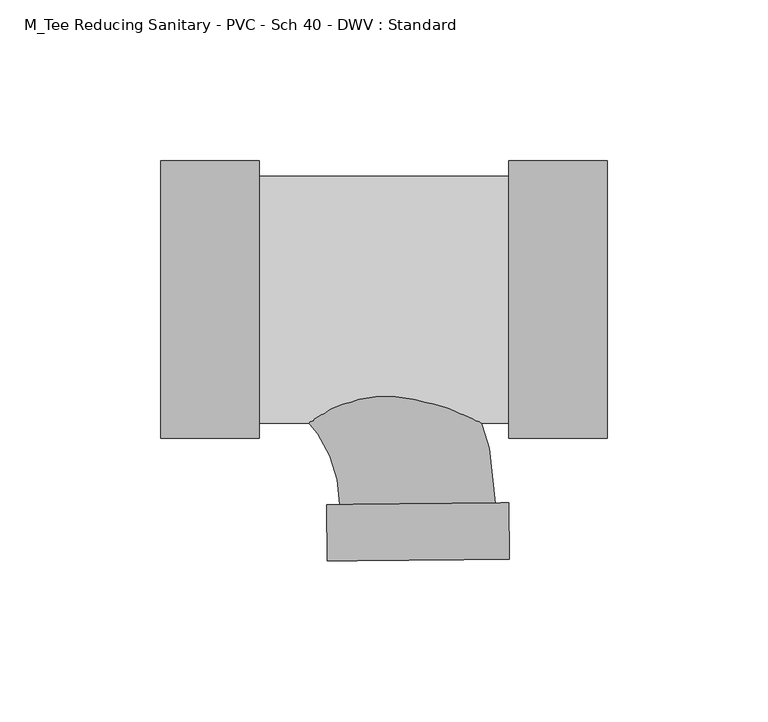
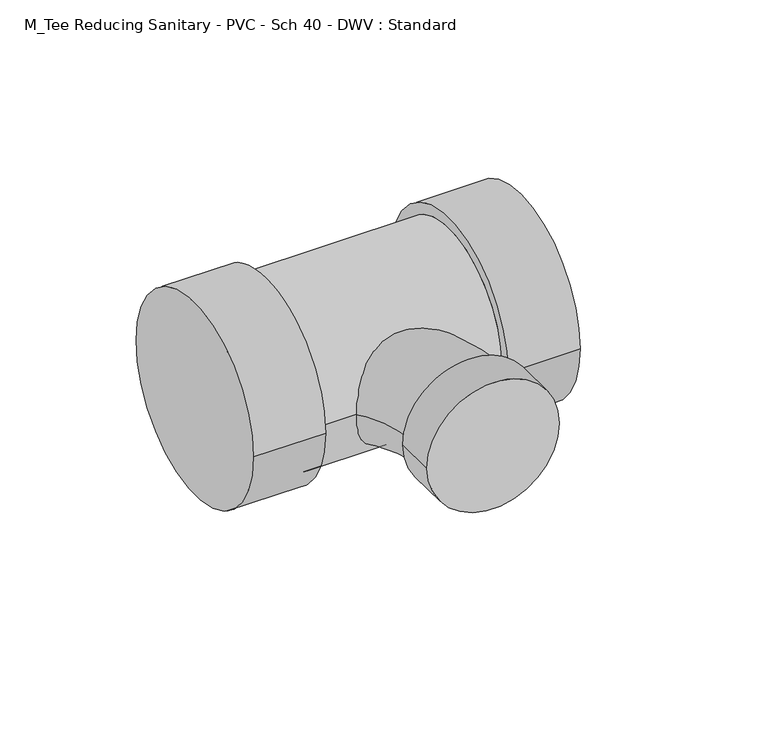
"""IFC4 building model written with IfcOpenShell, lengths in millimetres: pipe fitting geometry, M_Tee Reducing Sanitary - PVC - Sch 40 - DWV : Standard."""

from ifc_helpers import new_model, si_unit, point, frame, origin, place, context, project, spatial, circle_curve, ellipse_curve, trimmed, source, transform, mapped, element, save
from ifc_brep_helpers import plane_surface, cylinder_surface, revolved_surface, advanced_brep


def m_tee_reducing_sanitary_pvc_sch_40_dwv_standard_21d2848c(model_context):
    return source(origin(), model_context, "Body", "AdvancedBrep", [
        advanced_brep(
        [(28.9154308, -43.0871094, 0.0), (28.9154308, 43.0871094, 0.0), (28.9154308, -38.3640625, 0.0), (28.9154308, 38.3640625, 0.0), (59.4857433, -43.0871094, 0.0), (59.4857433, 43.0871094, 0.0), (-48.4928062, 38.3640625, 0.0), (-48.4928062, -38.3640625, 0.0), (-79.0631188, -43.0871094, 0.0), (-79.0631187, 43.0871094, 0.0), (-48.4928063, -43.0871094, 0.0), (-48.4928062, 43.0871094, 0.0)],
        [
            (0, 1, circle_curve(frame((28.9154308, 0.0, 0.0), z_axis=(-1.0, 0.0, 0.0), x_axis=(0.0, 1.0, 0.0)), 43.0871094)),
            (1, 0, circle_curve(frame((28.9154308, 0.0, 0.0), z_axis=(-1.0, 0.0, 0.0), x_axis=(0.0, 1.0, 0.0)), 43.0871094)),
            (2, 3, circle_curve(frame((28.9154308, 0.0, 0.0), z_axis=(1.0, 0.0, 0.0), x_axis=(0.0, 0.0, -1.0)), 38.3640625)),
            (3, 2, circle_curve(frame((28.9154308, 0.0, 0.0), z_axis=(1.0, 0.0, 0.0), x_axis=(0.0, 0.0, 1.0)), 38.3640625)),
            (4, 5, circle_curve(frame((59.4857433, 0.0, 0.0), z_axis=(1.0, 0.0, 0.0), x_axis=(0.0, 1.0, 0.0)), 43.0871094)),
            (5, 4, circle_curve(frame((59.4857433, 0.0, 0.0), z_axis=(1.0, 0.0, 0.0), x_axis=(0.0, 1.0, 0.0)), 43.0871094)),
            (0, 4),
            (5, 1),
            (6, 3),
            (2, 7),
            (7, 6, circle_curve(frame((-48.4928063, 0.0, 0.0), z_axis=(1.0, 0.0, 0.0), x_axis=(0.0, 0.0, -1.0)), 38.3640625)),
            (6, 7, circle_curve(frame((-48.4928062, 0.0, 0.0), z_axis=(1.0, 0.0, 0.0), x_axis=(0.0, 0.0, 1.0)), 38.3640625)),
            (8, 9, circle_curve(frame((-79.0631187, 0.0, 0.0), z_axis=(-1.0, 0.0, 0.0), x_axis=(0.0, 1.0, 0.0)), 43.0871094)),
            (9, 8, circle_curve(frame((-79.0631187, 0.0, 0.0), z_axis=(-1.0, 0.0, 0.0), x_axis=(0.0, 1.0, 0.0)), 43.0871094)),
            (10, 11, circle_curve(frame((-48.4928062, 0.0, 0.0), z_axis=(1.0, 0.0, 0.0), x_axis=(0.0, 1.0, 0.0)), 43.0871094)),
            (11, 10, circle_curve(frame((-48.4928062, 0.0, 0.0), z_axis=(1.0, 0.0, 0.0), x_axis=(0.0, 1.0, 0.0)), 43.0871094)),
            (8, 10),
            (11, 9),
        ],
        [
            plane_surface(frame((28.9154308, 0.0, 0.0), z_axis=(-1.0, 0.0, 0.0), x_axis=(0.0, 0.0, 1.0))),
            plane_surface(frame((59.4857433, 0.0, 0.0), z_axis=(1.0, 0.0, 0.0), x_axis=(0.0, 0.0, 1.0))),
            cylinder_surface(frame((28.9154308, 0.0, 0.0), z_axis=(-1.0, 0.0, 0.0), x_axis=(0.0, 1.0, 0.0)), 43.0871094),
            cylinder_surface(frame((-48.4928062, 0.0, 0.0), z_axis=(1.0, 0.0, 0.0), x_axis=(0.0, 0.0, -1.0)), 38.3640625),
            cylinder_surface(frame((-48.4928062, 0.0, 0.0), z_axis=(1.0, 0.0, 0.0), x_axis=(0.0, 0.0, 1.0)), 38.3640625),
            plane_surface(frame((-79.0631187, 0.0, 0.0), z_axis=(-1.0, 0.0, 0.0), x_axis=(0.0, 0.0, 1.0))),
            plane_surface(frame((-48.4928062, 0.0, 0.0), z_axis=(1.0, 0.0, 0.0), x_axis=(0.0, 0.0, 1.0))),
            cylinder_surface(frame((-79.0631187, 0.0, 0.0), z_axis=(-1.0, 0.0, 0.0), x_axis=(0.0, 1.0, 0.0)), 43.0871094),
        ],
        [
            (0, [[1, 2], [3, 4]]),
            (1, [[5, 6]]),
            (2, [[-1, 7, -6, 8]]),
            (2, [[-2, -8, -5, -7]]),
            (3, [[9, -3, 10, 11]]),
            (4, [[-9, 12, -10, -4]]),
            (5, [[13, 14]]),
            (6, [[15, 16], [-11, -12]]),
            (7, [[-13, 17, -16, 18]]),
            (7, [[-14, -18, -15, -17]]),
        ],
    ),
        advanced_brep(
        [(-27.6475411, -63.6773015, 0.0), (28.9154308, -63.1116717, 0.0), (24.7627385, -63.1531987, 0.0), (-23.4948487, -63.6357745, 0.0), (-27.4730518, -81.126229, 0.0), (29.0899201, -80.5605993, 0.0), (-63.3976562, -24.13, 0.0), (-63.3976562, 24.13, 0.0)],
        [
            (0, 1, circle_curve(frame((0.6339449, -63.3944866, 0.0), z_axis=(-0.009999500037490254, 0.9999500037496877, 0.0), x_axis=(0.9999500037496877, 0.009999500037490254, 0.0)), 28.2829)),
            (1, 0, circle_curve(frame((0.6339449, -63.3944866, 0.0), z_axis=(-0.009999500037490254, 0.9999500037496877, 0.0), x_axis=(0.9999500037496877, 0.009999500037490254, 0.0)), 28.2829)),
            (2, 3, circle_curve(frame((0.6339449, -63.3944866, 0.0), z_axis=(0.009999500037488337, -0.9999500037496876, 0.0), x_axis=(0.9999500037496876, 0.009999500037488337, 0.0)), 24.13)),
            (3, 2, circle_curve(frame((0.6339449, -63.3944866, 0.0), z_axis=(0.009999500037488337, -0.9999500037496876, 0.0), x_axis=(0.9999500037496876, 0.009999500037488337, 0.0)), 24.13)),
            (4, 5, circle_curve(frame((0.8084341, -80.8434142, 0.0), z_axis=(0.009999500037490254, -0.9999500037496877, 0.0), x_axis=(0.9999500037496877, 0.009999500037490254, 0.0)), 28.2829)),
            (5, 4, circle_curve(frame((0.8084341, -80.8434142, 0.0), z_axis=(0.009999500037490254, -0.9999500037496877, 0.0), x_axis=(0.9999500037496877, 0.009999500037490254, 0.0)), 28.2829)),
            (0, 4),
            (5, 1),
            (6, 7, circle_curve(frame((-63.3976562, 0.0, 0.0), z_axis=(-1.0, 0.0, 0.0), x_axis=(0.0, 1.0, 0.0)), 24.13)),
            (7, 6, circle_curve(frame((-63.3976562, 0.0, 0.0), z_axis=(-1.0, 0.0, 0.0), x_axis=(0.0, 1.0, 0.0)), 24.13)),
            (6, 3, circle_curve(frame((-63.3976562, -64.0348026, 0.0), z_axis=(0.0, 0.0, -1.0), x_axis=(0.0, 1.0, 0.0)), 39.9048026)),
            (2, 7, circle_curve(frame((-63.3976562, -64.0348026, 0.0), z_axis=(0.0, 0.0, 1.0), x_axis=(0.0, 1.0, 0.0)), 88.1648026)),
        ],
        [
            plane_surface(frame((0.6339449, -63.3944866, 0.0), z_axis=(-0.009999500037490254, 0.9999500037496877, 0.0), x_axis=(0.0, 0.0, 1.0))),
            plane_surface(frame((0.8084341, -80.8434142, 0.0), z_axis=(0.009999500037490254, -0.9999500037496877, 0.0), x_axis=(0.0, 0.0, 1.0))),
            cylinder_surface(frame((0.6339449, -63.3944866, 0.0), z_axis=(-0.009999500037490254, 0.9999500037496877, 0.0), x_axis=(0.9999500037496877, 0.009999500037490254, 0.0)), 28.2829),
            plane_surface(frame((-63.3976562, 0.0, 0.0), z_axis=(-1.0, 0.0, 0.0), x_axis=(0.0, 0.0, 1.0))),
            revolved_surface(trimmed(ellipse_curve(frame((-63.3976562, 0.0, 0.0), z_axis=(-1.0, 0.0, 0.0), x_axis=(0.0, 1.0, 0.0)), 24.13, 24.13), [point((-63.3976562, -24.13, 0.0))], [point((-63.3976562, 24.13, 0.0))], True, "CARTESIAN"), (-63.3976562, -64.0348026, 0.0), (0.0, 0.0, -1.0)),
            revolved_surface(trimmed(ellipse_curve(frame((-63.3976562, 0.0, 0.0), z_axis=(-1.0, 0.0, 0.0), x_axis=(0.0, 1.0, 0.0)), 24.13, 24.13), [point((-63.3976562, 24.13, 0.0))], [point((-63.3976562, -24.13, 0.0))], True, "CARTESIAN"), (-63.3976562, -64.0348026, 0.0), (0.0, 0.0, -1.0)),
        ],
        [
            (0, [[1, 2], [3, 4]]),
            (1, [[5, 6]]),
            (2, [[-1, 7, -6, 8]]),
            (2, [[-2, -8, -5, -7]]),
            (3, [[9, 10]]),
            (4, [[-9, 11, -3, 12]]),
            (5, [[-10, -12, -4, -11]]),
        ],
    ),
    ])


if __name__ == "__main__":
    model = new_model("IFC4")
    model_context = context("Model", 3, world=origin())
    ifc_project = project(units=[si_unit("LENGTHUNIT", "METRE", prefix="MILLI")], contexts=[model_context])
    site = spatial("IfcSite", under=ifc_project)
    building = spatial("IfcBuilding", under=site)
    placement = place(None, origin())
    m_tee_reducing_sanitary_pvc_sch_40_dwv_standard_shape = m_tee_reducing_sanitary_pvc_sch_40_dwv_standard_21d2848c(model_context)
    element("IfcPipeFitting", 1, ObjectType="M_Tee Reducing Sanitary - PVC - Sch 40 - DWV : Standard", at=placement, inside=building, context=model_context, shape_type="MappedRepresentation", body=[
        mapped(m_tee_reducing_sanitary_pvc_sch_40_dwv_standard_shape, transform((0.0, 0.0, 0.0), x_axis=(1.0, 0.0, 0.0), y_axis=(0.0, 1.0, 0.0), z_axis=(0.0, 0.0, 1.0))),
    ])
    save(model, "model.ifc")
